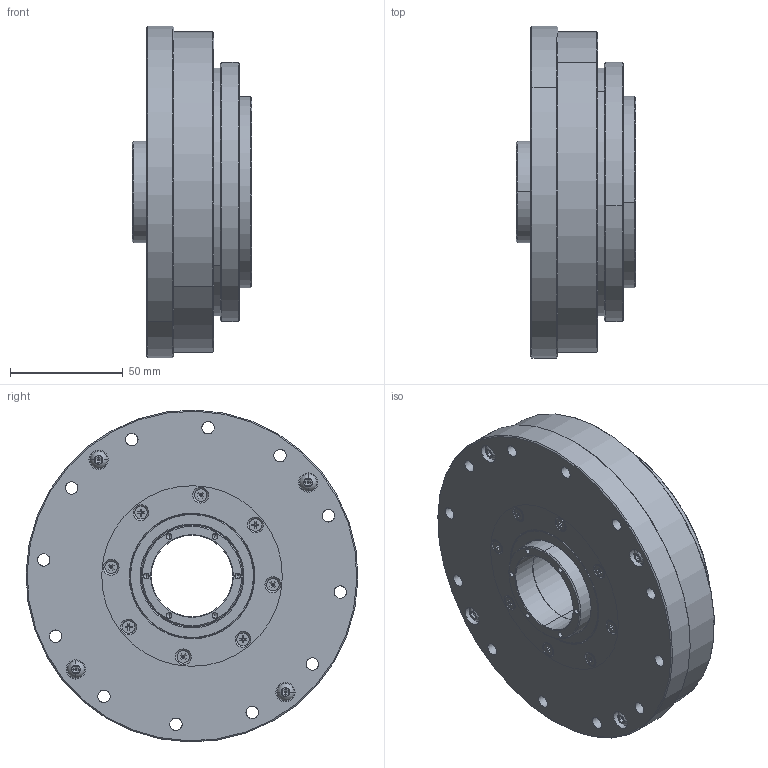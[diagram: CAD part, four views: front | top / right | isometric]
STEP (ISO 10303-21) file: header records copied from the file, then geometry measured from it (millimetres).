
FILE_DESCRIPTION (( 'STEP AP203' ), '1' );
FILE_NAME ('LHD-32-XXX-C-III.STEP', '2016-08-27T02:14:14', ( 'Windows 蚚誧' ), ( 'Users' ), 'SwSTEP 2.0', 'SolidWorks 2013', '' );
FILE_SCHEMA (( 'CONFIG_CONTROL_DESIGN' ));
Length unit declared in the file: millimetre
Products named in the file (21): LHD-32-XXX-C-III; LHD-32-XXX-P04-III; DB-32-III-3; LHD-32-XXX-P02-III; 6909zz; 15Z-45555; 6809zz; 15Z-1071196; DB-32-III-1; countersunk flat head cross recess screw_din_ISO 7046-1 - M3 x 8 - Z --- 8C; LHD-32-XXX-P08-III; LHD-32-XXX-P03-III; hexagon socket button head screws gb_GB_SOCKET_TYPE7 M4X10-N; LHD-32-XXX-P06-III; RZC-32内外圈+钢球; socket head cap screw_din_内六角圆柱头螺钉M4 x 12; LHD-32-XXX-P07-III; RZC-32悵厥殤; socket head cap screw_din_内六角圆柱头螺钉M4 x 10; LHD-32-XXX-P01-III; 柔性轴承RZC-32
Assembly tree (41 placements, depth 3):
  LHD-32-XXX-C-III
    LHD-32-XXX-P03-III
    柔性轴承RZC-32
      RZC-32内外圈+钢球
      RZC-32悵厥殤
    DB-32-III-3
    6909zz
    6809zz
    DB-32-III-1
    LHD-32-XXX-P08-III
    LHD-32-XXX-P06-III
    LHD-32-XXX-P07-III
    LHD-32-XXX-P01-III
    LHD-32-XXX-P04-III
    LHD-32-XXX-P02-III
    15Z-45555  x2
    15Z-1071196
    countersunk flat head cross recess screw_din_ISO 7046-1 - M3 x 8 - Z --- 8C  x8
    hexagon socket button head screws gb_GB_SOCKET_TYPE7 M4X10-N  x4
    socket head cap screw_din_内六角圆柱头螺钉M4 x 12  x6
    socket head cap screw_din_内六角圆柱头螺钉M4 x 10  x6
Bounding box: 53 x 146.97 x 146.97 mm (x, y, z)
Volume: 463983.2 mm3; surface area: 283656.9 mm2
Topology: 113 solids, 113 shells, 1832 faces, 4406 edges, 2677 vertices
Faces by surface type: cylinder 633, plane 567, cone 342, sphere 146, torus 144
Entity records: 36580 total; most frequent: DIRECTION 6688, CARTESIAN_POINT 5672, ORIENTED_EDGE 5162, AXIS2_PLACEMENT_3D 2893, EDGE_CURVE 2581, VERTEX_POINT 1673, CIRCLE 1652, EDGE_LOOP 1526
